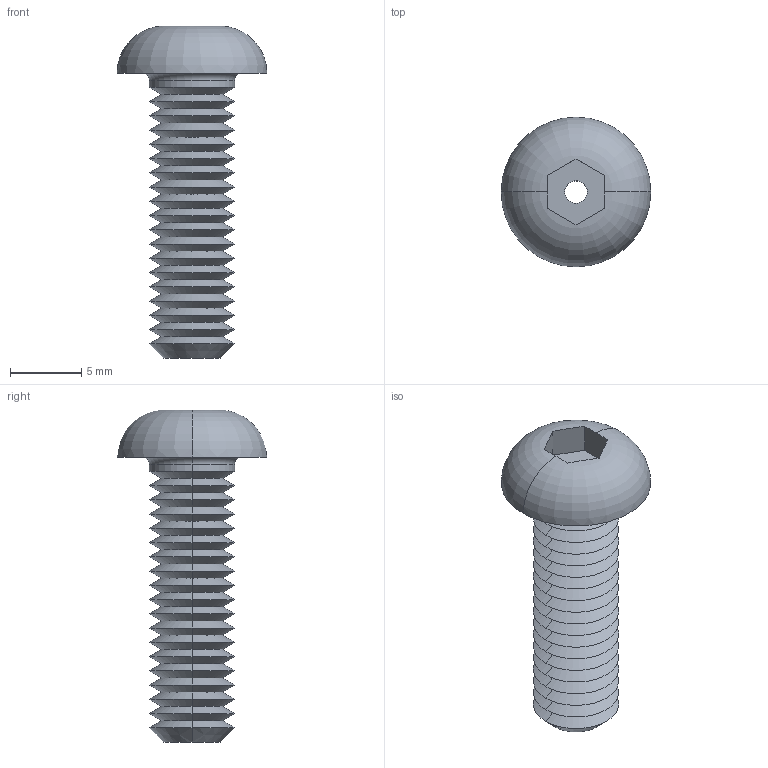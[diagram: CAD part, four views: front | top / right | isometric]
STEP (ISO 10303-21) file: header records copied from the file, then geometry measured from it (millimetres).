
FILE_DESCRIPTION (( 'STEP AP203' ), '1' );
FILE_NAME ('P0094.060-020-A2.step', '2019-07-12T16:55:39', ( '' ), ( '' ), 'SwSTEP 2.0', 'SolidWorks 2017', '' );
FILE_SCHEMA (( 'CONFIG_CONTROL_DESIGN' ));
Length unit declared in the file: millimetre
Products named in the file (1): P0094.060-020-A2
Bounding box: 10.5 x 10.5 x 23.3 mm (x, y, z)
Volume: 573.4 mm3; surface area: 963.9 mm2
Topology: 1 solids, 1 shells, 91 faces, 188 edges, 100 vertices
Faces by surface type: cone 74, plane 9, cylinder 4, torus 4
Entity records: 2445 total; most frequent: DIRECTION 454, CARTESIAN_POINT 416, ORIENTED_EDGE 376, EDGE_CURVE 188, AXIS2_PLACEMENT_3D 182, VERTEX_POINT 100, EDGE_LOOP 94, FACE_OUTER_BOUND 91
